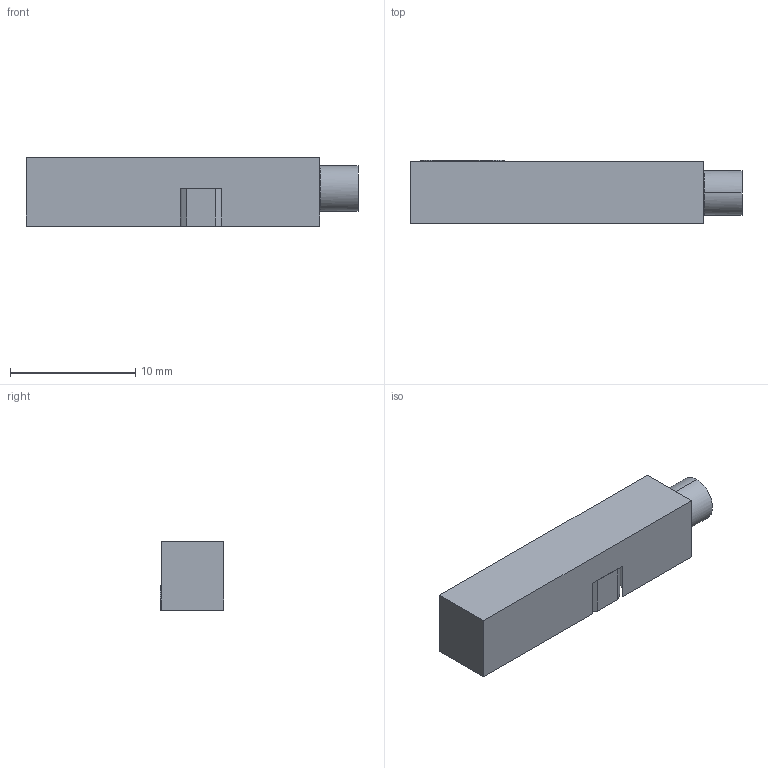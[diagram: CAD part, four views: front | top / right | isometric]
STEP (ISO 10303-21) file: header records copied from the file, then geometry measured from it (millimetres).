
FILE_DESCRIPTION(('STEP AP214'),'1');
FILE_NAME('W:/Zeichnungen/3D Modelle homepage/tmp0.step','2014-12-03T14:47:35',(' '),(' '),'Spatial InterOp 3D',' ',' ');
FILE_SCHEMA(('automotive_design'));
Length unit declared in the file: millimetre
Products named in the file (4): 1; 4; 3; 2
Bounding box: 26.55 x 5.07 x 5.54 mm (x, y, z)
Volume: 690 mm3; surface area: 789.2 mm2
Topology: 4 solids, 4 shells, 49 faces, 120 edges, 80 vertices
Faces by surface type: plane 35, cylinder 12, bspline 2
Entity records: 2847 total; most frequent: CARTESIAN_POINT 288, DIRECTION 249, ORIENTED_EDGE 240, STYLED_ITEM 232, PRESENTATION_STYLE_ASSIGNMENT 232, COLOUR_RGB 232, EDGE_CURVE 120, CURVE_STYLE 113
